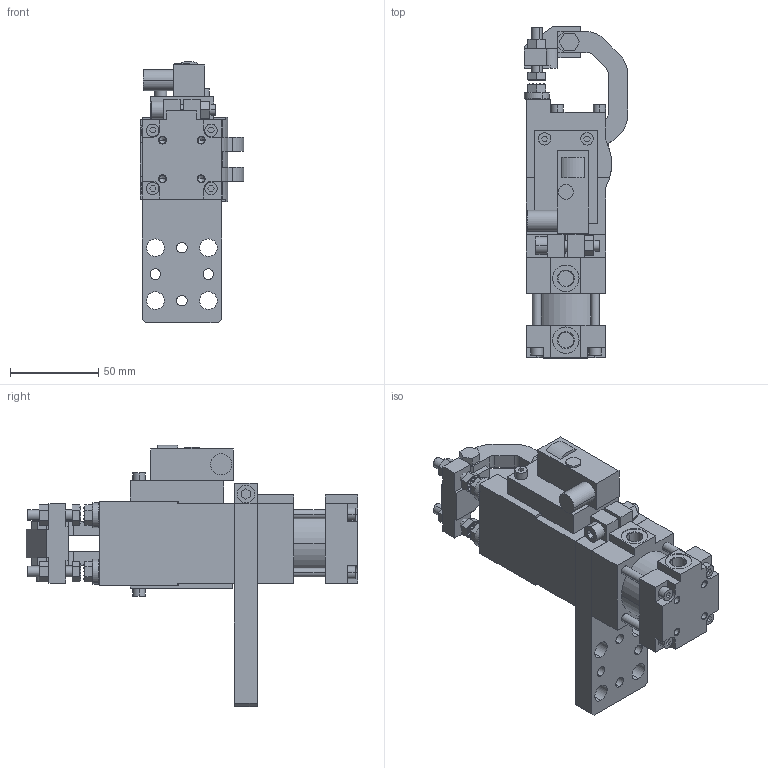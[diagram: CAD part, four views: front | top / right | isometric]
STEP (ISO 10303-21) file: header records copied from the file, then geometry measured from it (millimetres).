
FILE_DESCRIPTION (( 'STEP AP214' ), '1' );
FILE_NAME ('b32_a2s4_pla___a_a.STEP', '2018-05-08T12:50:12', ( 'vepadmin' ), ( 'Hewlett-Packard Company' ), 'SwSTEP 2.0', 'SolidWorks 2018', '' );
FILE_SCHEMA (( 'AUTOMOTIVE_DESIGN' ));
Length unit declared in the file: millimetre
Products named in the file (12): piastra_a_b32; tassello_a2_b32; riparo_micro_b32; leva_b32a; gruppo_montante_b32a; b32_a2s4_pla___a_a; scatola_micro_b32; blocchetto_p&f_90; rondella_s4_b32a; piedino_zigrinato_M6x25; piedino_zigrinato_M6x10; gruppo_cilindro_b32
Assembly tree (14 placements, depth 2):
  b32_a2s4_pla___a_a
    gruppo_montante_b32a
    leva_b32a
    riparo_micro_b32
    tassello_a2_b32
    piastra_a_b32
    gruppo_cilindro_b32
    piedino_zigrinato_M6x10  x2
    piedino_zigrinato_M6x25  x2
    rondella_s4_b32a  x2
    blocchetto_p&f_90
    scatola_micro_b32
Bounding box: 58.5 x 188 x 148.1 mm (x, y, z)
Volume: 377754.9 mm3; surface area: 107670.4 mm2
Topology: 14 solids, 14 shells, 1071 faces, 2530 edges, 1633 vertices
Faces by surface type: plane 755, cylinder 266, cone 50
Entity records: 24757 total; most frequent: CARTESIAN_POINT 4373, DIRECTION 4004, ORIENTED_EDGE 3956, EDGE_CURVE 1978, LINE 1440, VECTOR 1440, VERTEX_POINT 1291, AXIS2_PLACEMENT_3D 1282
